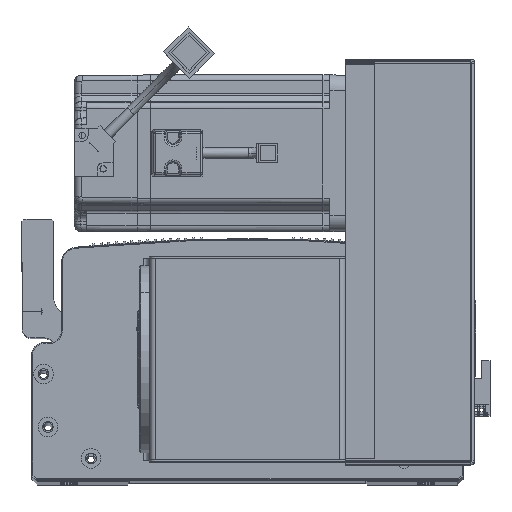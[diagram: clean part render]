
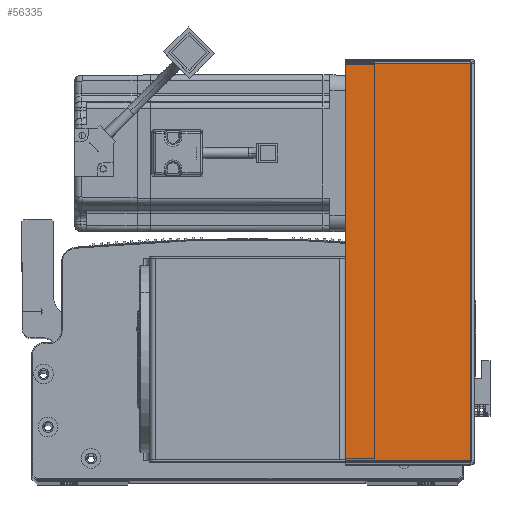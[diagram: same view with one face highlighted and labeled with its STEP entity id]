
A CAD part, top view. The second image highlights one B-rep face of the part: STEP entity #56335.
In plain terms, the highlighted planar face has unit normal (0, 0, 1) as drawn and (0, -1, 0) by its records, which use the part's own axes.
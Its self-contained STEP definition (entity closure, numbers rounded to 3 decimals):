
#898 = LINE ( 'NONE', #17206, #74161 ) ;
#2553 = ORIENTED_EDGE ( 'NONE', *, *, #83788, .T. ) ;
#4428 = VERTEX_POINT ( 'NONE', #6362 ) ;
#4800 = ORIENTED_EDGE ( 'NONE', *, *, #59295, .F. ) ;
#5111 = AXIS2_PLACEMENT_3D ( 'NONE', #26077, #32611, #19244 ) ;
#5478 = CARTESIAN_POINT ( 'NONE',  ( 0.737, -1.5, 0. ) ) ;
#6362 = CARTESIAN_POINT ( 'NONE',  ( 64.5, -1.5, -0.707 ) ) ;
#6494 = PLANE ( 'NONE',  #5111 ) ;
#6714 = LINE ( 'NONE', #19284, #8743 ) ;
#8743 = VECTOR ( 'NONE', #26387, 1000. ) ;
#15217 = EDGE_CURVE ( 'NONE', #22886, #35430, #64912, .T. ) ;
#16274 = CARTESIAN_POINT ( 'NONE',  ( 0.737, -1.5, -0.707 ) ) ;
#17206 = CARTESIAN_POINT ( 'NONE',  ( 64.5, -1.5, 0. ) ) ;
#19244 = DIRECTION ( 'NONE',  ( -1., 0., 0. ) ) ;
#19284 = CARTESIAN_POINT ( 'NONE',  ( 0., -1.5, -0.707 ) ) ;
#22886 = VERTEX_POINT ( 'NONE', #27978 ) ;
#26077 = CARTESIAN_POINT ( 'NONE',  ( 0., -1.5, 0. ) ) ;
#26387 = DIRECTION ( 'NONE',  ( 1., 0., 0. ) ) ;
#27978 = CARTESIAN_POINT ( 'NONE',  ( 0.737, -1.5, -203.293 ) ) ;
#32611 = DIRECTION ( 'NONE',  ( 0., 1., 0. ) ) ;
#35430 = VERTEX_POINT ( 'NONE', #66948 ) ;
#37389 = VERTEX_POINT ( 'NONE', #16274 ) ;
#41670 = EDGE_CURVE ( 'NONE', #37389, #4428, #6714, .T. ) ;
#51027 = DIRECTION ( 'NONE',  ( 0., 0., 1. ) ) ;
#52867 = EDGE_LOOP ( 'NONE', ( #4800, #67985, #2553, #53313 ) ) ;
#53313 = ORIENTED_EDGE ( 'NONE', *, *, #41670, .F. ) ;
#56335 = ADVANCED_FACE ( 'NONE', ( #59803 ), #6494, .F. ) ;
#58422 = CARTESIAN_POINT ( 'NONE',  ( 0., -1.5, -203.293 ) ) ;
#59295 = EDGE_CURVE ( 'NONE', #22886, #37389, #74763, .T. ) ;
#59490 = VECTOR ( 'NONE', #51027, 1000. ) ;
#59803 = FACE_OUTER_BOUND ( 'NONE', #52867, .T. ) ;
#64912 = LINE ( 'NONE', #58422, #76087 ) ;
#64993 = DIRECTION ( 'NONE',  ( 1., 0., 0. ) ) ;
#66948 = CARTESIAN_POINT ( 'NONE',  ( 64.5, -1.5, -203.293 ) ) ;
#67985 = ORIENTED_EDGE ( 'NONE', *, *, #15217, .T. ) ;
#74161 = VECTOR ( 'NONE', #75019, 1000. ) ;
#74763 = LINE ( 'NONE', #5478, #59490 ) ;
#75019 = DIRECTION ( 'NONE',  ( 0., 0., 1. ) ) ;
#76087 = VECTOR ( 'NONE', #64993, 1000. ) ;
#83788 = EDGE_CURVE ( 'NONE', #35430, #4428, #898, .T. ) ;
